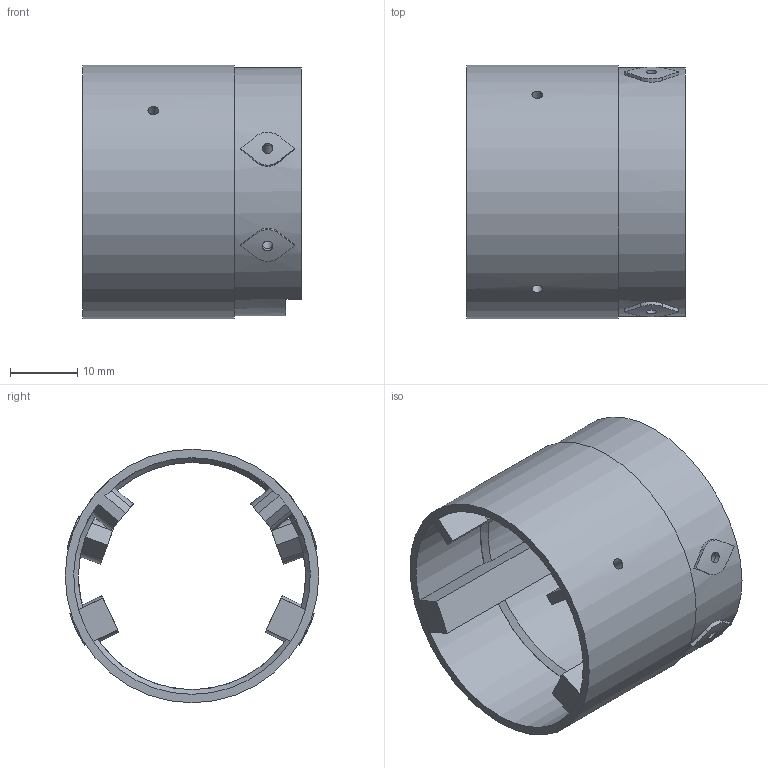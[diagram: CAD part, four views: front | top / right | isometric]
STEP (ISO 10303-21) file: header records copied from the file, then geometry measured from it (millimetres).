
FILE_DESCRIPTION(('SkyG Speed 90B - revision C6B-17 - 2026-10-13','TC-tail-coupler'),'2;1');
FILE_NAME('TC-tail-coupler_C6B-17','2026-10-13T21:54:46',('Author'),( 'Open CASCADE'),'Open CASCADE STEP processor 7.9','Open CASCADE 7.9' ,'Unknown');
FILE_SCHEMA(('AUTOMOTIVE_DESIGN { 1 0 10303 214 1 1 1 1 }'));
Length unit declared in the file: millimetre
Products named in the file (1): TC-tail-coupler C6B-17
Bounding box: 32.5 x 37.7 x 37.7 mm (x, y, z)
Volume: 7283.9 mm3; surface area: 8771.4 mm2
Topology: 1 solids, 1 shells, 108 faces, 298 edges, 198 vertices
Faces by surface type: plane 63, cylinder 41, cone 4
Full cylindrical faces by diameter (mm): 1.6 x10, 33.8 x1, 37 x1, 37.7 x1
Entity records: 10133 total; most frequent: CARTESIAN_POINT 4565, DIRECTION 923, ORIENTED_EDGE 596, PCURVE 596, DEFINITIONAL_REPRESENTATION 596, LINE 382, VECTOR 382, EDGE_CURVE 298
